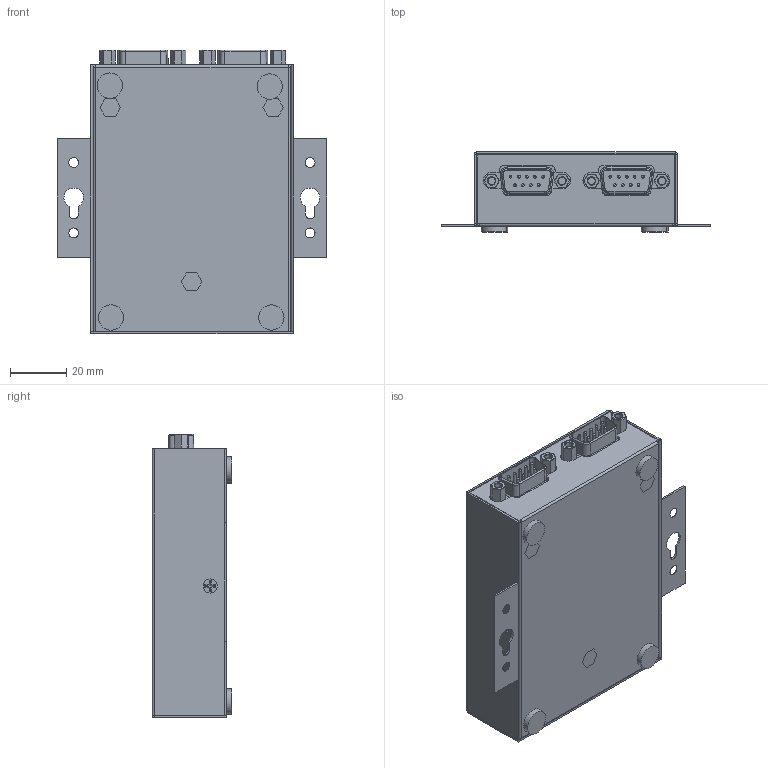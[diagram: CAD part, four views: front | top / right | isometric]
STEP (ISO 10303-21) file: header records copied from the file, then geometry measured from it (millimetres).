
FILE_DESCRIPTION(/* description */ (''),/* implementation_level */ '2;1');
FILE_NAME(/* name */ 'NCAN-2 v4.step',/* time_stamp */ '2024-06-24T14:54:00-04:00',/* author */ (''),/* organization */ (''),/* preprocessor_version */ 'ST-DEVELOPER v20',/* originating_system */ 'Autodesk Translation Framework v12.20.1.177',/* authorisation */ '');
FILE_SCHEMA (('AUTOMOTIVE_DESIGN { 1 0 10303 214 3 1 1 }'));
Products named in the file (62): NCAN-2; Board; 93090A547; Bottom; Top; 3mm_LED v1 red; 3mm_LED; led_energy (1); led_pin.1.1.1 (1); led_pin.2.1 (1); M3X0.5 China 120ang METRIC 18-8 SS FLAT HEAD PHIL MACHINE SCREW v2; Component22; Serial Port v1; Connector 2 pin white terminal 2; Component1 (1); LAN ethernet horizontal; reset Wall tact reset; 3mm_LED v1 red_1; 3mm_LED_1; led_energy (1)_1; led_pin.1.1.1 (1)_1; led_pin.2.1 (1)_1; 3mm_LED v1 red_2; 3mm_LED_2; led_energy (1)_2; led_energy; led_pin.1.1.1 (1)_2; led_pin.1.1.1; led_pin.2.1 (1)_2; led_pin.2.1; LED 3mm v5Greens; 3mm_LED (1); led_energy (1) (1); led_energy (2); led_pin.1.1.1 (1) (1); led_pin.1.1.1 (2); led_pin.2.1 (1) (1); led_pin.2.1 (2); LED 3mm v5 (1)Greens; 3mm_LED (2)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
Assembly tree (75 placements, depth 5):
  NCAN-2
    Board
    93090A547  x3
    Bottom
    Top
    3mm_LED v1 red
      3mm_LED
        led_energy (1)
          led_energy
        led_pin.1.1.1 (1)
          led_pin.1.1.1
        led_pin.2.1 (1)
          led_pin.2.1
    M3X0.5 China 120ang METRIC 18-8 SS FLAT HEAD PHIL MACHINE SCREW v2  x2
    Component22  x4
    Serial Port v1  x2
    Connector 2 pin white terminal 2
      Component1 (1)  x2
    LAN ethernet horizontal
    reset Wall tact reset
    3mm_LED v1 red_1
      3mm_LED_1
        led_energy (1)_1
          led_energy
        led_pin.1.1.1 (1)_1
          led_pin.1.1.1
        led_pin.2.1 (1)_1
          led_pin.2.1
    3mm_LED v1 red_2
      3mm_LED_2
        led_energy (1)_2
          led_energy
        led_pin.1.1.1 (1)_2
          led_pin.1.1.1
        led_pin.2.1 (1)_2
          led_pin.2.1
    LED 3mm v5Greens
      3mm_LED (1)
        led_energy (1) (1)
          led_energy (2)
        led_pin.1.1.1 (1) (1)
          led_pin.1.1.1 (2)
        led_pin.2.1 (1) (1)
          led_pin.2.1 (2)
    LED 3mm v5 (1)Greens
      3mm_LED (2)
        led_energy (1) (2)
          led_energy (3)
        led_pin.1.1.1 (1) (2)
          led_pin.1.1.1 (3)
        led_pin.2.1 (1) (2)
          led_pin.2.1 (3)
    LED 3mm v5 (2)Green
      3mm_LED (3)
        led_energy (1) (3)
          led_energy (4)
        led_pin.1.1.1 (1) (3)
          led_pin.1.1.1 (4)
        led_pin.2.1 (1) (3)
          led_pin.2.1 (4)
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Bounding box: 95.93 x 28.35 x 100.78 mm (x, y, z)
Volume: 40214.1 mm3; surface area: 77634 mm2
Topology: 56 solids, 56 shells, 2211 faces, 5778 edges, 3765 vertices
Faces by surface type: plane 1528, cylinder 396, bspline 141, cone 72, sphere 37, torus 37
Full cylindrical faces by diameter (mm): 1 x18, 1.1 x8, 1.81 x1, 2.35 x12, 2.5 x1, 2.529 x2, 2.6 x4, 2.8 x8, 2.998 x7, 3 x30, 3.643 x7, 4.765 x3, 5.4 x3, 9 x4
Entity records: 68030 total; most frequent: CARTESIAN_POINT 21150, ORIENTED_EDGE 9698, DIRECTION 8947, EDGE_CURVE 4849, LINE 3771, VECTOR 3771, VERTEX_POINT 3174, AXIS2_PLACEMENT_3D 2588
